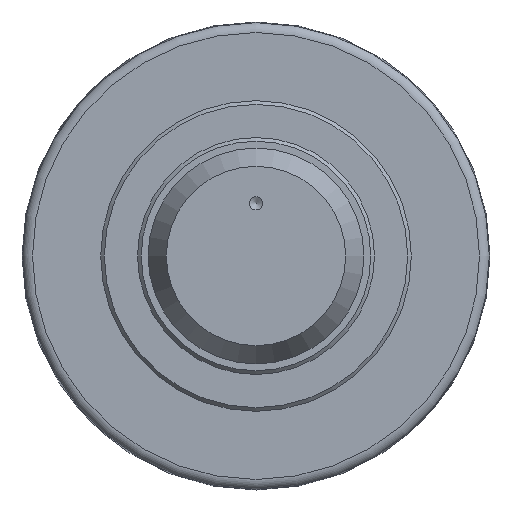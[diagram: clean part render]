
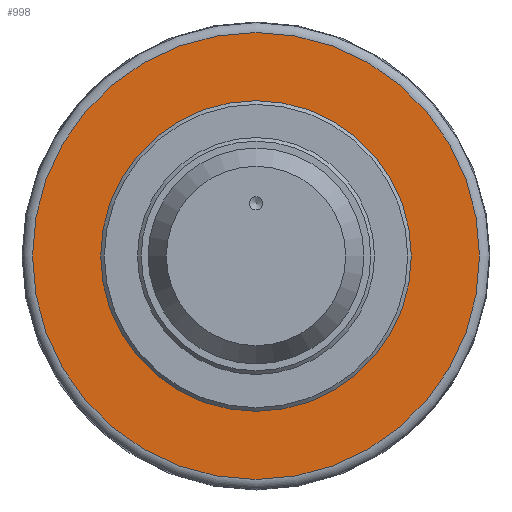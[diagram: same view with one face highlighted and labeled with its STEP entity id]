
A CAD part, left-side view. The second image highlights one B-rep face of the part: STEP entity #998.
In plain terms, the highlighted planar face has unit normal (-1, 0, 0).
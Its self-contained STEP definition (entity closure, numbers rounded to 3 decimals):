
#27=FACE_BOUND('',#168,.T.);
#42=PLANE('',#1102);
#104=FACE_OUTER_BOUND('',#167,.T.);
#167=EDGE_LOOP('',(#714));
#168=EDGE_LOOP('',(#715));
#420=CIRCLE('',#1101,42.45);
#421=CIRCLE('',#1103,28.5);
#460=VERTEX_POINT('',#1597);
#461=VERTEX_POINT('',#1601);
#558=EDGE_CURVE('',#460,#460,#420,.T.);
#559=EDGE_CURVE('',#461,#461,#421,.T.);
#714=ORIENTED_EDGE('',*,*,#558,.F.);
#715=ORIENTED_EDGE('',*,*,#559,.T.);
#998=ADVANCED_FACE('',(#104,#27),#42,.T.);
#1101=AXIS2_PLACEMENT_3D('',#1599,#1242,#1243);
#1102=AXIS2_PLACEMENT_3D('',#1600,#1244,#1245);
#1103=AXIS2_PLACEMENT_3D('',#1602,#1246,#1247);
#1242=DIRECTION('center_axis',(1.,0.,0.));
#1243=DIRECTION('ref_axis',(0.,-1.,0.));
#1244=DIRECTION('center_axis',(-1.,0.,0.));
#1245=DIRECTION('ref_axis',(0.,0.,1.));
#1246=DIRECTION('center_axis',(1.,0.,0.));
#1247=DIRECTION('ref_axis',(0.,1.,0.));
#1597=CARTESIAN_POINT('',(-33.5,0.,42.45));
#1599=CARTESIAN_POINT('Origin',(-33.5,0.,0.));
#1600=CARTESIAN_POINT('Origin',(-33.5,36.475,0.));
#1601=CARTESIAN_POINT('',(-33.5,-28.5,0.));
#1602=CARTESIAN_POINT('Origin',(-33.5,0.,0.));
